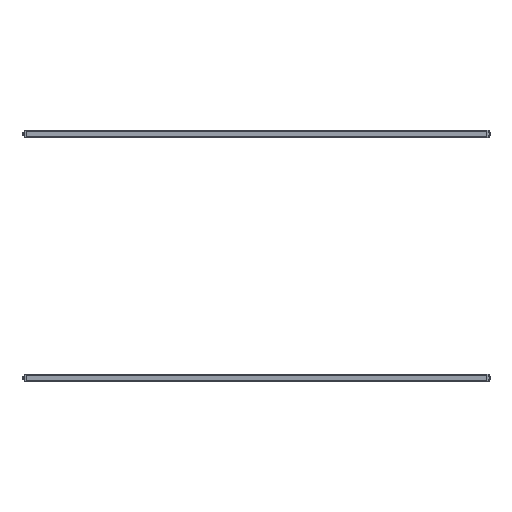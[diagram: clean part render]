
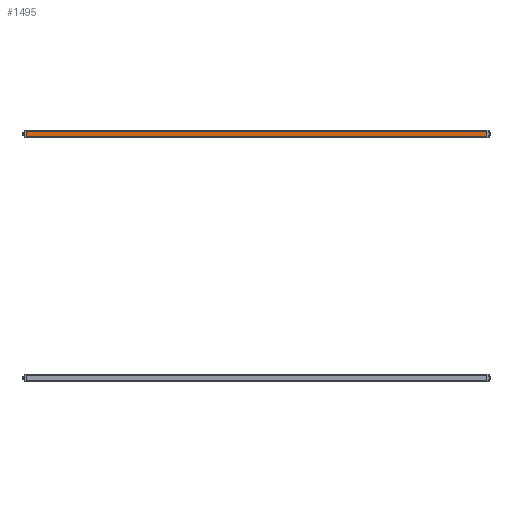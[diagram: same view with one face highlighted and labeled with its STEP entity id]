
A CAD part, front view. The second image highlights one B-rep face of the part: STEP entity #1495.
In plain terms, the highlighted planar face has unit normal (0, -1, 0).
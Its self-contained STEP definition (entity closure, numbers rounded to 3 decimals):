
#1495=ADVANCED_FACE('',(#2417),#2028,.T.);
#2028=PLANE('',#11681);
#2417=FACE_OUTER_BOUND('',#2936,.T.);
#2936=EDGE_LOOP('',(#6212,#6213,#6214,#6215));
#3504=LINE('',#15476,#4677);
#3606=LINE('',#15708,#4779);
#3694=LINE('',#15887,#4867);
#3695=LINE('',#15888,#4868);
#4677=VECTOR('',#12523,1.);
#4779=VECTOR('',#12669,1.);
#4867=VECTOR('',#12859,1.);
#4868=VECTOR('',#12860,1.);
#6212=ORIENTED_EDGE('',*,*,#9854,.T.);
#6213=ORIENTED_EDGE('',*,*,#10063,.T.);
#6214=ORIENTED_EDGE('',*,*,#9971,.F.);
#6215=ORIENTED_EDGE('',*,*,#10064,.F.);
#8861=VERTEX_POINT('',#15475);
#8862=VERTEX_POINT('',#15477);
#8969=VERTEX_POINT('',#15707);
#8970=VERTEX_POINT('',#15709);
#9854=EDGE_CURVE('',#8862,#8861,#3504,.T.);
#9971=EDGE_CURVE('',#8969,#8970,#3606,.T.);
#10063=EDGE_CURVE('',#8861,#8970,#3694,.T.);
#10064=EDGE_CURVE('',#8862,#8969,#3695,.T.);
#11681=AXIS2_PLACEMENT_3D('',#15889,#12861,#12862);
#12523=DIRECTION('',(0.,0.,-1.));
#12669=DIRECTION('',(0.,0.,-1.));
#12859=DIRECTION('',(1.,0.,0.));
#12860=DIRECTION('',(1.,0.,0.));
#12861=DIRECTION('',(0.,-1.,0.));
#12862=DIRECTION('',(0.,0.,-1.));
#15475=CARTESIAN_POINT('',(0.,-15.15,-12.));
#15476=CARTESIAN_POINT('',(0.,-15.15,12.));
#15477=CARTESIAN_POINT('',(0.,-15.15,12.));
#15707=CARTESIAN_POINT('',(1940.,-15.15,12.));
#15708=CARTESIAN_POINT('',(1940.,-15.15,0.));
#15709=CARTESIAN_POINT('',(1940.,-15.15,-12.));
#15887=CARTESIAN_POINT('',(0.,-15.15,-12.));
#15888=CARTESIAN_POINT('',(0.,-15.15,12.));
#15889=CARTESIAN_POINT('',(0.,-15.15,15.65));
